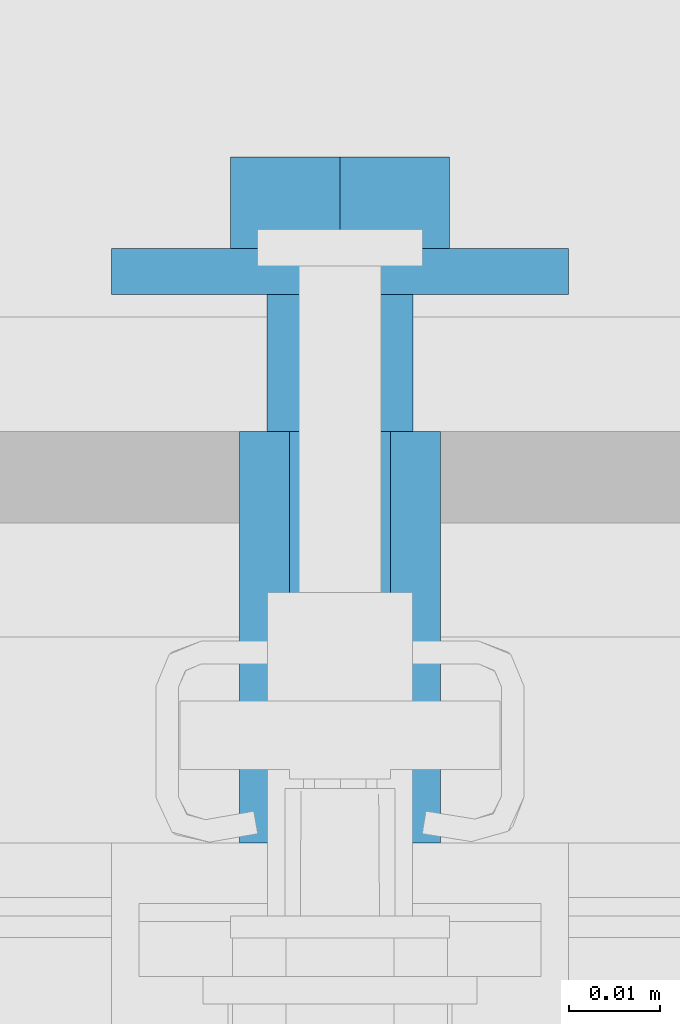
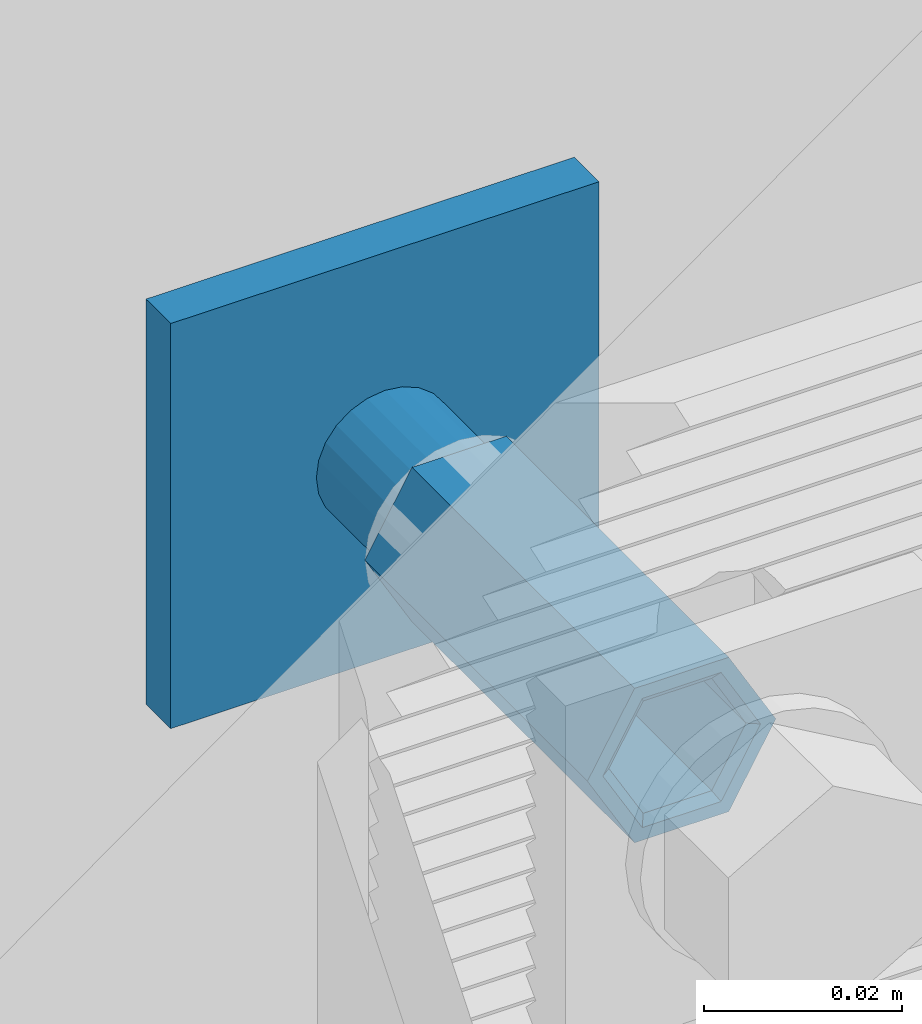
# One storey, part 2 of 8: 1 assembly.
"""IFC2X3 building model written with IfcOpenShell, lengths in metres."""

from ifc_helpers import new_model, entity, si_unit, converted_unit, derived_unit, direction, frame, origin, place, context, subcontext, project, spatial, faceted_brep, source, transform, mapped, material, type_object, type_shapes, element, save


model = new_model("IFC2X3")

# Units and contexts
model_context = context("Model", 3, precision=1e-05, world=origin(), true_north=direction((6.123031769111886e-17, 1.0)))
body_context = subcontext(model_context, "Body", "Model", "MODEL_VIEW")
ifc_project = project(units=[si_unit("LENGTHUNIT", "METRE"), si_unit("AREAUNIT", "SQUARE_METRE"), converted_unit("PLANEANGLEUNIT", "DEGREE", entity("IfcPlaneAngleMeasure", 0.017453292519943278), si_unit("PLANEANGLEUNIT", "RADIAN"), dimensions=[0, 0, 0, 0, 0, 0, 0]), si_unit("VOLUMEUNIT", "CUBIC_METRE"), derived_unit("THERMALTRANSMITTANCEUNIT", [(si_unit("MASSUNIT", "GRAM", prefix="KILO"), 1), (si_unit("THERMODYNAMICTEMPERATUREUNIT", "KELVIN"), -1), (si_unit("TIMEUNIT", "SECOND"), -3)]), derived_unit("USERDEFINED", [(si_unit("MASSUNIT", "GRAM", prefix="KILO"), 1), (si_unit("THERMODYNAMICTEMPERATUREUNIT", "KELVIN"), -1), (si_unit("TIMEUNIT", "SECOND"), -2)]), derived_unit("THERMALRESISTANCEUNIT", [(si_unit("MASSUNIT", "GRAM", prefix="KILO"), -1), (si_unit("TIMEUNIT", "SECOND"), 3), (si_unit("THERMODYNAMICTEMPERATUREUNIT", "KELVIN"), 1)]), si_unit("PRESSUREUNIT", "PASCAL"), derived_unit("MASSDENSITYUNIT", [(si_unit("MASSUNIT", "GRAM", prefix="KILO"), 1), (si_unit("LENGTHUNIT", "METRE"), -3)]), derived_unit("VAPORPERMEABILITYUNIT", [(si_unit("LENGTHUNIT", "METRE"), -1), (si_unit("TIMEUNIT", "SECOND"), 1)]), derived_unit("USERDEFINED", [(si_unit("MASSUNIT", "GRAM", prefix="KILO"), 1), (si_unit("TIMEUNIT", "SECOND"), -3), (si_unit("LENGTHUNIT", "METRE"), 3), (si_unit("ELECTRICCURRENTUNIT", "AMPERE"), -2)])], contexts=[model_context])

# Site, building, storey
site_placement = place(None, origin())
site = spatial("IfcSite", under=ifc_project, at=site_placement, Name="Default", CompositionType="ELEMENT")
building_placement = place(site_placement, origin())
building = spatial("IfcBuilding", under=site, at=building_placement, CompositionType="ELEMENT")
storey_placement = place(building_placement, origin())
storey = spatial("IfcBuildingStorey", under=building, at=storey_placement, Name="L0", CompositionType="ELEMENT", Elevation=0.0)

# Assembly
ifc_material = material(Name="REC_Acero, S 275JR (Zincado)")
type_product = type_object("IfcTypeProduct", Name="REC-HBP M16-75 EV:HBP M16-75 EV", material=ifc_material)
shared_shape = source(origin(), body_context, "Body", "Brep", [
    faceted_brep([(-0.010999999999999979, 0.0, 0.0), (-0.009199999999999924, 0.0, 0.0), (-0.005499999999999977, 0.009526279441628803, 0.0), (-0.005500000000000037, -0.009526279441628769, 0.0), (-0.004600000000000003, -0.007967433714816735, 0.0), (0.004599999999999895, -0.007967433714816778, 0.0), (0.005499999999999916, -0.009526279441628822, 0.0), (0.00919999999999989, 0.0, 0.0), (0.010999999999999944, 0.0, 0.0), (0.0054999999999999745, 0.009526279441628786, 0.0), (0.004599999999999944, 0.00796743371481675, 0.0), (-0.004599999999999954, 0.007967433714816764, 0.0), (0.0039999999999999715, 0.006928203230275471, -0.0008571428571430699), (0.007999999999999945, 0.0, -0.0008571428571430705), (-0.003999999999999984, 0.006928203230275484, -0.0008571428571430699), (-0.007999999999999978, 0.0, -0.0008571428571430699), (-0.004000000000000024, -0.006928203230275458, -0.0008571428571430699), (0.003999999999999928, -0.0069282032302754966, -0.0008571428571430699), (0.003999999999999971, 0.0069282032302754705, -0.04500000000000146), (0.007999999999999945, 0.0, -0.04500000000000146), (-0.003999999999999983, 0.006928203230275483, -0.04500000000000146), (-0.007999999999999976, 0.0, -0.04500000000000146), (-0.004000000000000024, -0.006928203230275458, -0.04500000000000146), (0.003999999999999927, -0.006928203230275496, -0.04500000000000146), (-0.005499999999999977, 0.009526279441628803, -0.04500000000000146), (-0.010999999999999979, 0.0, -0.04500000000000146), (0.0054999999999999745, 0.009526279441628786, -0.04500000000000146), (0.010999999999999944, 0.0, -0.04500000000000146), (0.005499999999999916, -0.009526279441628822, -0.04500000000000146), (-0.005500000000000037, -0.009526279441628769, -0.04500000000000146)], [[[0, 1, 2]], [[1, 0, 3]], [[3, 4, 1]], [[4, 3, 5]], [[6, 5, 3]], [[5, 6, 7]], [[8, 7, 6]], [[7, 8, 9]], [[10, 9, 2]], [[9, 10, 7]], [[11, 2, 1]], [[2, 11, 10]], [[7, 10, 12, 13]], [[10, 11, 14, 12]], [[11, 1, 15, 14]], [[1, 4, 16, 15]], [[4, 5, 17, 16]], [[5, 7, 13, 17]], [[13, 12, 18, 19]], [[12, 14, 20, 18]], [[14, 15, 21, 20]], [[15, 16, 22, 21]], [[16, 17, 23, 22]], [[17, 13, 19, 23]], [[24, 21, 25]], [[21, 24, 20]], [[18, 20, 24]], [[24, 26, 18]], [[19, 18, 26]], [[26, 27, 19]], [[28, 19, 27]], [[19, 28, 23]], [[29, 23, 28]], [[21, 22, 29]], [[23, 29, 22]], [[29, 25, 21]], [[27, 26, 9, 8]], [[26, 24, 2, 9]], [[24, 25, 0, 2]], [[25, 29, 3, 0]], [[29, 28, 6, 3]], [[28, 27, 8, 6]]]),
    faceted_brep([(0.007999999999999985, 0.0, -0.022500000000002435), (0.0077274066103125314, 0.002070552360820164, -0.022500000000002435), (0.006928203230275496, 0.003999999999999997, -0.022500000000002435), (0.005656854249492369, 0.005656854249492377, -0.022500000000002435), (0.0039999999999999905, 0.006928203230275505, -0.022500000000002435), (0.00207055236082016, 0.007727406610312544, -0.022500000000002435), (0.0, 0.008, -0.022500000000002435), (-0.0020705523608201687, 0.0077274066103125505, -0.022500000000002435), (-0.0040000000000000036, 0.006928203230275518, -0.022500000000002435), (-0.005656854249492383, 0.005656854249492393, -0.022500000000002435), (-0.006928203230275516, 0.004000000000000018, -0.022500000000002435), (-0.007727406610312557, 0.0020705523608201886, -0.022500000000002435), (-0.008000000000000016, 0.0, -0.022500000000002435), (-0.007727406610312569, -0.002070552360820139, -0.022500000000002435), (-0.006928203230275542, -0.003999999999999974, -0.022500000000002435), (-0.0056568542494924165, -0.005656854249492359, -0.022500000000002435), (-0.0040000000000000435, -0.006928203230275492, -0.022500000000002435), (-0.002070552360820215, -0.0077274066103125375, -0.022500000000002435), (0.0, -0.008, -0.022500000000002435), (0.0020705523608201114, -0.007727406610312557, -0.022500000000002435), (0.003999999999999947, -0.00692820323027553, -0.022500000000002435), (0.005656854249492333, -0.005656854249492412, -0.022500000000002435), (0.0069282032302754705, -0.004000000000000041, -0.022500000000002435), (0.007727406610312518, -0.002070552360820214, -0.022500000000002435), (0.0, 0.008, -0.060000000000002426), (0.00207055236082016, 0.007727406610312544, -0.060000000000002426), (0.0039999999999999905, 0.006928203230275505, -0.060000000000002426), (0.005656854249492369, 0.005656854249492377, -0.060000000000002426), (0.006928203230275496, 0.003999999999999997, -0.060000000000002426), (0.0077274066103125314, 0.002070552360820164, -0.060000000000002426), (0.007999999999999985, 0.0, -0.060000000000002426), (0.007727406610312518, -0.002070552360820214, -0.060000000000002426), (0.0069282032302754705, -0.004000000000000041, -0.060000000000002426), (0.005656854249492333, -0.005656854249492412, -0.060000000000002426), (0.003999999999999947, -0.00692820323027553, -0.060000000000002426), (0.0020705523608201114, -0.007727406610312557, -0.060000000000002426), (0.0, -0.008, -0.060000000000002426), (-0.002070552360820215, -0.0077274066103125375, -0.060000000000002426), (-0.0040000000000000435, -0.006928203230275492, -0.060000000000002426), (-0.0056568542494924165, -0.005656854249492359, -0.060000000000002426), (-0.006928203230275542, -0.003999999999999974, -0.060000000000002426), (-0.007727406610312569, -0.002070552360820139, -0.060000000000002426), (-0.008000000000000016, 0.0, -0.060000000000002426), (-0.007727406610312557, 0.0020705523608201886, -0.060000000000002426), (-0.006928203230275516, 0.004000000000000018, -0.060000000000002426), (-0.005656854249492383, 0.005656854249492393, -0.060000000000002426), (-0.0040000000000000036, 0.006928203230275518, -0.060000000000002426), (-0.0020705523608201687, 0.0077274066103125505, -0.060000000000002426)], [[[0, 1, 2, 3, 4, 5, 6, 7, 8, 9, 10, 11, 12, 13, 14, 15, 16, 17, 18, 19, 20, 21, 22, 23]], [[24, 25, 26, 27, 28, 29, 30, 31, 32, 33, 34, 35, 36, 37, 38, 39, 40, 41, 42, 43, 44, 45, 46, 47]], [[41, 13, 12, 42]], [[40, 14, 13, 41]], [[16, 15, 39, 38]], [[40, 39, 15, 14]], [[17, 16, 38, 37]], [[18, 17, 37, 36]], [[35, 19, 18, 36]], [[34, 20, 19, 35]], [[22, 21, 33, 32]], [[34, 33, 21, 20]], [[23, 22, 32, 31]], [[0, 23, 31, 30]], [[29, 1, 0, 30]], [[28, 2, 1, 29]], [[4, 3, 27, 26]], [[28, 27, 3, 2]], [[5, 4, 26, 25]], [[6, 5, 25, 24]], [[47, 7, 6, 24]], [[46, 8, 7, 47]], [[10, 9, 45, 44]], [[46, 45, 9, 8]], [[11, 10, 44, 43]], [[12, 11, 43, 42]]]),
    faceted_brep([(0.02499999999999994, 0.025000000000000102, -0.060000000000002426), (-0.024999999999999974, 0.025000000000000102, -0.060000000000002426), (-0.024999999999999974, -0.025000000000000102, -0.060000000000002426), (0.02499999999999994, -0.025000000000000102, -0.060000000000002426), (0.02499999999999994, 0.025000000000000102, -0.06500000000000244), (0.02499999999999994, -0.025000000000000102, -0.06500000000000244), (-0.024999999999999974, -0.025000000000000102, -0.06500000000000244), (-0.024999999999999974, 0.025000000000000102, -0.06500000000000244)], [[[0, 1, 2, 3]], [[4, 5, 6, 7]], [[1, 0, 4, 7]], [[2, 1, 7, 6]], [[3, 2, 6, 5]], [[0, 3, 5, 4]]]),
    faceted_brep([(-0.011999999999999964, 0.00692820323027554, -0.06500000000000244), (-0.011999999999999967, -0.006928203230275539, -0.06500000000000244), (0.0, -0.013856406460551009, -0.06500000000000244), (0.011999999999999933, -0.00692820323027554, -0.06500000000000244), (0.011999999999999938, 0.00692820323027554, -0.06500000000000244), (0.0, 0.01385640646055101, -0.06500000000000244), (-0.011999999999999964, 0.00692820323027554, -0.07500000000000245), (0.0, 0.01385640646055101, -0.07500000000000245), (0.011999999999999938, 0.00692820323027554, -0.07500000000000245), (0.011999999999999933, -0.00692820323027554, -0.07500000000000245), (0.0, -0.013856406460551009, -0.07500000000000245), (-0.011999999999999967, -0.00692820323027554, -0.07500000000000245)], [[[0, 1, 2, 3, 4, 5]], [[6, 7, 8, 9, 10, 11]], [[1, 0, 6, 11]], [[2, 1, 11, 10]], [[3, 2, 10, 9]], [[4, 3, 9, 8]], [[5, 4, 8, 7]], [[0, 5, 7, 6]]]),
])
type_shapes(type_product, [shared_shape])
assembly_placement = place(storey_placement, frame((5.387720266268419, 15.934530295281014, 0.07200000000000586), z_axis=(0.0, -1.0, 0.0), x_axis=(1.0, 0.0, 0.0)))
element("IfcElementAssembly", 1, at=assembly_placement, inside=storey, type_object=type_product, material=ifc_material, Name="REC-HBP M16-75 EV:HBP M16-75 EV", ObjectType="REC-HBP M16-75 EV:HBP M16-75 EV", AssemblyPlace="NOTDEFINED", PredefinedType="NOTDEFINED", context=body_context, shape_type="MappedRepresentation", body=[
    mapped(shared_shape, transform((0.0, 0.0, 0.0), scale=1.0)),
])

save(model, "model.ifc")
